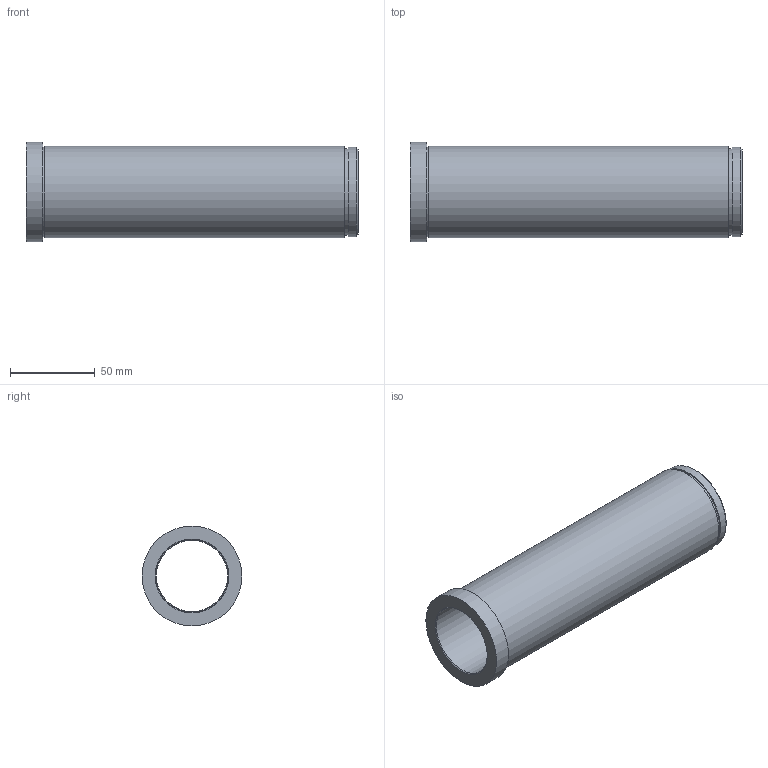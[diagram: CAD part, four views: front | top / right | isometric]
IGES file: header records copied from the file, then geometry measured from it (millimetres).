
Global section: file name: BG05.042196.ipt; native system: Autodesk Inventor 2021; preprocessor: unknown; author: SM; date: 20211221.172943; units: millimetre
Bounding box: 196 x 59 x 59 mm (x, y, z)
Volume: 176622.8 mm3; surface area: 62332.8 mm2
Topology: 1 solids, 1 shells, 17 faces, 31 edges, 21 vertices
Faces by surface type: plane 7, cylinder 5, revolution 4, cone 1
Full cylindrical faces by diameter (mm): 51 x1, 52.6 x1, 53 x1, 54 x1, 59 x1
